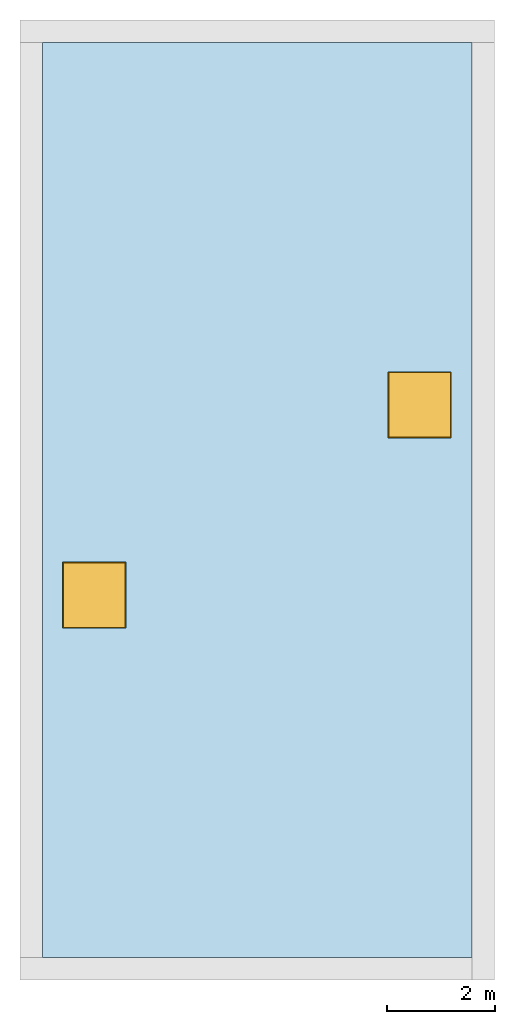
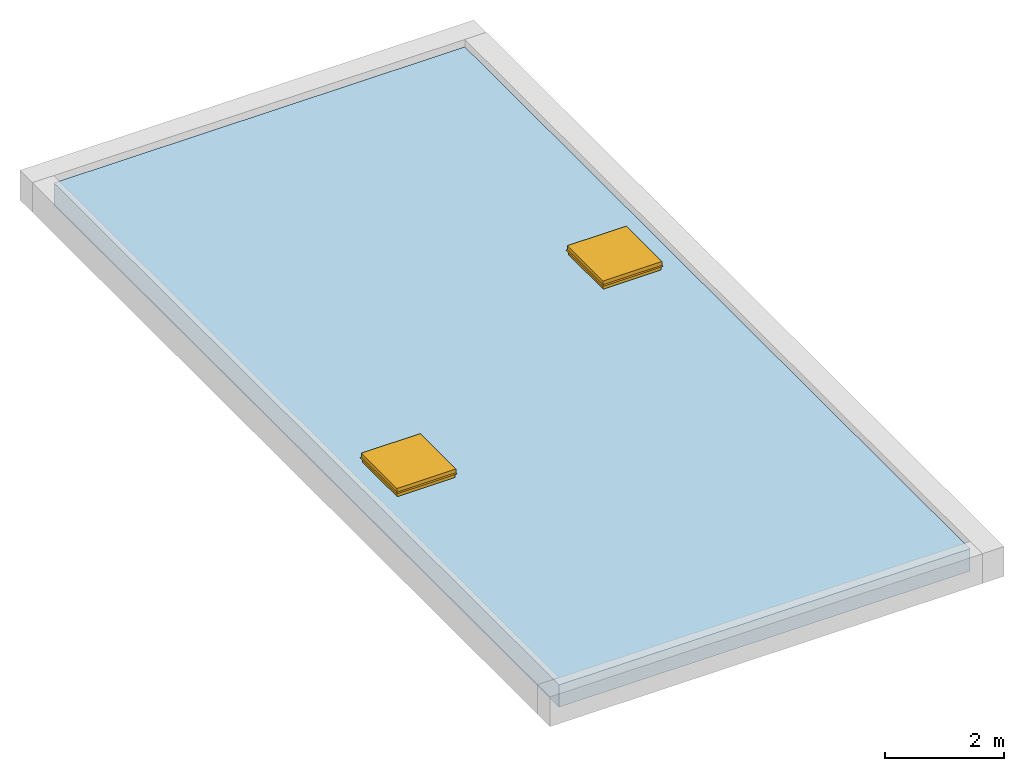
# One storey, part 2 of 2: 2 windows, 1 slab, 4 openings, 1 element without a shape of its own.
"""IFC4 building model written with IfcOpenShell, lengths in metres."""

from ifc_helpers import new_model, entity, si_unit, converted_unit, frame, origin, origin_2d_with_axis, place, context, project, spatial, rectangle, extrude, face_set, surface_model, source, transform, mapped, material, layer, layer_set, layer_usage, type_object, type_shapes, element, fill, aggregate, save


model = new_model("IFC4")

# Units and contexts
model_context = context("Model", 3, precision=1e-09, world=origin())
plan_context = context("Plan", 3, precision=1e-09, world=origin())
ifc_project = project(units=[si_unit("LENGTHUNIT", "METRE"), si_unit("AREAUNIT", "SQUARE_METRE"), si_unit("VOLUMEUNIT", "CUBIC_METRE"), converted_unit("PLANEANGLEUNIT", "DEGREE", entity("IfcRatioMeasure", 0.01745329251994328), si_unit("PLANEANGLEUNIT", "RADIAN"), dimensions=[0, 0, 0, 0, 0, 0, 0]), si_unit("TIMEUNIT", "SECOND")], contexts=[model_context, plan_context])

# Site, building, storey
site_placement = place(None, origin())
site = spatial("IfcSite", under=ifc_project, at=site_placement, Name="Default", CompositionType="ELEMENT")
building_placement = place(site_placement, origin())
building = spatial("IfcBuilding", under=site, at=building_placement, CompositionType="ELEMENT")
storey_placement = place(building_placement, frame((0.0, 0.0, 6.0)))
storey = spatial("IfcBuildingStorey", under=building, at=storey_placement, Name="Roof", CompositionType="ELEMENT", Elevation=6.00000000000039)

# Roof, openings, slab, windows
ifc_material_1 = material(Name="Site - Grass")
ifc_layer_1 = layer(ifc_material_1, 0.06399999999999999)
ifc_material_2 = material(Name="Roofing - Barrier")
ifc_layer_2 = layer(ifc_material_2, 0.006)
ifc_material_3 = material(Name="Roofing - EPDM Membrane")
ifc_layer_3 = layer(ifc_material_3, 0.006)
ifc_material_4 = material(Name="Insulation / Thermal Barriers - Rigid insulation")
ifc_layer_4 = layer(ifc_material_4, 0.07599999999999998)
ifc_material_5 = material(Name="Wood - Sheathing - plywood")
ifc_layer_5 = layer(ifc_material_5, 0.019)
ifc_material_6 = material(Name="Wood - Dimensional Lumber")
ifc_layer_6 = layer(ifc_material_6, 0.286)
ifc_layer_set = layer_set([ifc_layer_1, ifc_layer_2, ifc_layer_3, ifc_layer_4, ifc_layer_5, ifc_layer_6], Name="Basic Roof:Live Roof over Wood Joist Flat Roof")
ifc_layer_usage = layer_usage(ifc_layer_set, "AXIS3", "NEGATIVE", 0.0)
roof_placement = place(storey_placement, origin())
roof = element("IfcRoof", 1, at=roof_placement, inside=storey, material=ifc_layer_usage, Name="Basic Roof:Live Roof over Wood Joist Flat Roof", ObjectType="Basic Roof:Live Roof over Wood Joist Flat Roof")
opening_1_placement = place(roof_placement, frame((0.416999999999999, -17.383, 0.0)))
opening_1 = element("IfcOpeningElement", 2, at=opening_1_placement, cuts=roof, ObjectType="Opening", context=model_context, shape_type="SweptSolid", body=[
    extrude(rectangle(XDim=1.029099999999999, YDim=1.081099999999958, at=origin_2d_with_axis()), frame((0.9590000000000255, 6.717999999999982, -1.067000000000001), z_axis=(0.0, 0.0, 1.0), x_axis=(-1.0, 0.0, 0.0)), (0.0, 0.0, 1.0), 3.048),
])
opening_2_placement = place(roof_placement, frame((0.416999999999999, -17.383, 0.0)))
opening_2 = element("IfcOpeningElement", 3, at=opening_2_placement, cuts=roof, ObjectType="Opening", context=model_context, shape_type="SweptSolid", body=[
    extrude(rectangle(XDim=1.0291, YDim=1.081099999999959, at=origin_2d_with_axis()), frame((6.992000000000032, 10.24799999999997, -1.067000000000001), z_axis=(0.0, 0.0, 1.0), x_axis=(-1.0, 0.0, 0.0)), (0.0, 0.0, 1.0), 3.048),
])
slab_placement = place(roof_placement, frame((0.416999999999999, -17.383, 0.0)))
slab = element("IfcSlab", 4, at=slab_placement, Name="Basic Roof:Live Roof over Wood Joist Flat Roof", ObjectType="Basic Roof:Live Roof over Wood Joist Flat Roof", PredefinedType="ROOF", context=model_context, shape_type="SweptSolid", body=[
    extrude(rectangle(XDim=7.965999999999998, YDim=16.96599999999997, at=origin_2d_with_axis()), frame((3.983000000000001, 8.482999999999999, 0.0)), (0.0, 0.0, 1.0), 0.4570000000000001),
])
opening_3_placement = place(roof_placement, frame((1.376000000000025, -10.66500000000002, 0.0)))
element("IfcOpeningElement", 5, at=opening_3_placement, cuts=slab, Name="Basic Roof:Live Roof over Wood Joist Flat Roof:2", ObjectType="Opening", context=model_context, shape_type="SweptSolid", body=[
    extrude(rectangle(XDim=1.0291, YDim=1.08109999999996, at=origin_2d_with_axis()), frame((0.0, 0.0, 0.0), z_axis=(0.0, 0.0, 1.0), x_axis=(-1.0, 0.0, 0.0)), (0.0, 0.0, 1.0), 0.4570000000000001),
])
opening_4_placement = place(roof_placement, frame((7.409000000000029, -7.135000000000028, 0.0)))
element("IfcOpeningElement", 6, at=opening_4_placement, cuts=slab, Name="Basic Roof:Live Roof over Wood Joist Flat Roof:3", ObjectType="Opening", context=model_context, shape_type="SweptSolid", body=[
    extrude(rectangle(XDim=1.029099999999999, YDim=1.08109999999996, at=origin_2d_with_axis()), frame((0.0, 0.0, 0.0), z_axis=(0.0, 0.0, 1.0), x_axis=(-1.0, 0.0, 0.0)), (0.0, 0.0, 1.0), 0.4570000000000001),
])
aggregate(roof, [slab])
window_type = type_object("IfcWindowType", Name="1180 x 1170mm", ParameterTakesPrecedence=False, PartitioningType="NOTDEFINED", PredefinedType="WINDOW")
shared_shape = source(origin(), model_context, "Body", "SurfaceModel", [
    surface_model("IfcFaceBasedSurfaceModel", [(0.2544400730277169, 0.3701040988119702, 4.267), (0.2798400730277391, 0.3955040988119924, 4.267), (0.2798400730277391, -0.7744959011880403, 4.267), (0.254440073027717, -0.7490959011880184, 4.267), (0.2544400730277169, 0.3701040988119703, 4.292400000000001), (0.2544400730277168, -0.7490959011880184, 4.292400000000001), (0.292540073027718, 0.4082040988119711, 4.292400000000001), (0.2925400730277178, -0.7871959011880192, 4.292400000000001), (0.2925400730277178, 0.4082040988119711, 4.267), (0.2925400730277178, -0.7871959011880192, 4.267), (0.2925400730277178, 0.4082040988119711, 4.216200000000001), (0.2925400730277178, -0.7871959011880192, 4.216200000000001), (0.3071089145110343, 0.4227729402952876, 4.19539353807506), (0.3071089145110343, -0.8017647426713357, 4.19539353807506), (0.3019072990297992, 0.4175713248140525, 4.191751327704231), (0.3019072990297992, -0.7965631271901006, 4.191751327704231), (0.286190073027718, 0.4018540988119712, 4.214197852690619), (0.286190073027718, -0.7808459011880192, 4.214197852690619), (0.2861900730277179, 0.4018540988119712, 4.267), (0.286190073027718, -0.7808459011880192, 4.267), (-0.8381599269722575, -0.7744959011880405, 4.267), (-0.8127599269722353, -0.7490959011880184, 4.267), (-0.8127599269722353, -0.7490959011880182, 4.292400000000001), (-0.8508599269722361, -0.7871959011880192, 4.292400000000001), (-0.8508599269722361, -0.7871959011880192, 4.267), (-0.8508599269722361, -0.7871959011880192, 4.216200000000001), (-0.8654287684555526, -0.8017647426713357, 4.19539353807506), (-0.8602271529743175, -0.7965631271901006, 4.191751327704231), (-0.8445099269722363, -0.7808459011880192, 4.214197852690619), (-0.8445099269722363, -0.7808459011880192, 4.267), (-0.8381599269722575, 0.3955040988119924, 4.267), (-0.8127599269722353, 0.3701040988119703, 4.267), (-0.8127599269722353, 0.3701040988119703, 4.292400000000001), (-0.8508599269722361, 0.4082040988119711, 4.292400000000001), (-0.8508599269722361, 0.4082040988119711, 4.267), (-0.8508599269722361, 0.4082040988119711, 4.216200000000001), (-0.8654287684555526, 0.4227729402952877, 4.19539353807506), (-0.8602271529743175, 0.4175713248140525, 4.191751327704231), (-0.8445099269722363, 0.4018540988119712, 4.214197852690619), (-0.8445099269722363, 0.4018540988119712, 4.267), (0.279840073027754, -0.7744959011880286, 4.267), (0.279840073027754, -0.7744959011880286, 4.1146), (0.2798400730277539, 0.3955040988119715, 4.1146), (0.2798400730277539, 0.3955040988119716, 4.267), (0.2544400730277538, -0.7490959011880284, 4.267), (0.2544400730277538, 0.3701040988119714, 4.267), (0.2544400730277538, -0.7490959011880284, 4.2416), (0.2544400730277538, 0.3701040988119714, 4.2416), (0.2353900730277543, -0.7300459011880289, 4.2416), (0.2353900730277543, 0.351054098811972, 4.2416), (0.2353900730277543, -0.7300459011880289, 4.1146), (0.2353900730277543, 0.351054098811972, 4.1146), (-0.8381599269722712, 0.3955040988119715, 4.1146), (-0.8381599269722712, 0.3955040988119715, 4.267), (-0.812759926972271, 0.3701040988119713, 4.267), (-0.812759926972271, 0.3701040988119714, 4.2416), (-0.7937099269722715, 0.3510540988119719, 4.2416), (-0.7937099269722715, 0.3510540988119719, 4.1146), (-0.8381599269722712, -0.7744959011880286, 4.267), (-0.8381599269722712, -0.7744959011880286, 4.1146), (-0.812759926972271, -0.7490959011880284, 4.267), (-0.812759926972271, -0.7490959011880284, 4.2416), (-0.7937099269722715, -0.7300459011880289, 4.2416), (-0.7937099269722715, -0.7300459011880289, 4.1146), (0.2544400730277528, -0.7490959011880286, 4.292400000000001), (-0.8127599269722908, -0.7490959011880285, 4.292400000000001), (-0.8127599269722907, 0.3701040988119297, 4.292400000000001), (0.254440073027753, 0.3701040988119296, 4.292400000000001), (0.2544400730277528, -0.7490959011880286, 4.28605), (-0.8127599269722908, -0.7490959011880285, 4.28605), (-0.8127599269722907, 0.3701040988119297, 4.28605), (0.254440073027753, 0.3701040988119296, 4.28605)], [face_set([[[0, 1, 2, 3]], [[4, 5, 3, 0]], [[6, 7, 5, 4]], [[8, 6, 7, 9]], [[10, 8, 9, 11]], [[12, 13, 11, 10]], [[14, 12, 13, 15]], [[16, 14, 15, 17]], [[18, 19, 17, 16]], [[1, 18, 19, 2]], [[3, 2, 20, 21]], [[5, 22, 21, 3]], [[7, 23, 22, 5]], [[9, 7, 23, 24]], [[11, 9, 24, 25]], [[13, 26, 25, 11]], [[15, 13, 26, 27]], [[17, 15, 27, 28]], [[19, 29, 28, 17]], [[2, 19, 29, 20]], [[21, 20, 30, 31]], [[22, 21, 31, 32]], [[23, 33, 32, 22]], [[24, 34, 33, 23]], [[25, 35, 34, 24]], [[26, 36, 35, 25]], [[27, 26, 36, 37]], [[28, 27, 37, 38]], [[29, 28, 38, 39]], [[20, 29, 39, 30]], [[31, 30, 1, 0]], [[32, 4, 0, 31]], [[33, 6, 4, 32]], [[34, 33, 6, 8]], [[35, 34, 8, 10]], [[36, 12, 10, 35]], [[37, 36, 12, 14]], [[38, 37, 14, 16]], [[39, 18, 16, 38]], [[30, 39, 18, 1]]]), face_set([[[40, 41, 42, 43]], [[44, 45, 43, 40]], [[46, 47, 45, 44]], [[48, 49, 47, 46]], [[50, 51, 49, 48]], [[41, 50, 51, 42]], [[43, 42, 52, 53]], [[45, 54, 53, 43]], [[47, 55, 54, 45]], [[49, 56, 55, 47]], [[51, 57, 56, 49]], [[42, 51, 57, 52]], [[53, 58, 59, 52]], [[54, 60, 58, 53]], [[55, 54, 60, 61]], [[56, 62, 61, 55]], [[57, 56, 62, 63]], [[52, 57, 63, 59]], [[58, 59, 41, 40]], [[60, 44, 40, 58]], [[61, 46, 44, 60]], [[62, 48, 46, 61]], [[63, 50, 48, 62]], [[59, 63, 50, 41]]]), face_set([[[64, 65, 66, 67]], [[68, 69, 70, 71]], [[67, 64, 68, 71]], [[66, 67, 71, 70]], [[65, 69, 70, 66]], [[64, 65, 69, 68]]])]),
])
type_shapes(window_type, [shared_shape])
window_1_placement = place(opening_1_placement, frame((1.238159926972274, 6.90749590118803, -3.657600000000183)))
window_1 = element("IfcWindow", 7, at=window_1_placement, inside=storey, type_object=window_type, Name="M_Skylight:1180 x 1170mm:1180 x 1170mm", ObjectType="1180 x 1170mm", OverallHeight=0.6348000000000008, OverallWidth=1.172537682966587, context=model_context, shape_type="MappedRepresentation", body=[
    mapped(shared_shape, transform((0.0, 0.0, 0.0), scale=1.0)),
])
fill(opening_1, window_1)
window_2_placement = place(opening_2_placement, frame((7.271159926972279, 10.43749590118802, -3.657600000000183)))
window_2 = element("IfcWindow", 8, at=window_2_placement, inside=storey, type_object=window_type, Name="M_Skylight:1180 x 1170mm:1180 x 1170mm", ObjectType="1180 x 1170mm", OverallHeight=0.6348000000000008, OverallWidth=1.172537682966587, context=model_context, shape_type="MappedRepresentation", body=[
    mapped(shared_shape, transform((0.0, 0.0, 0.0), scale=1.0)),
])
fill(opening_2, window_2)

save(model, "model.ifc")
